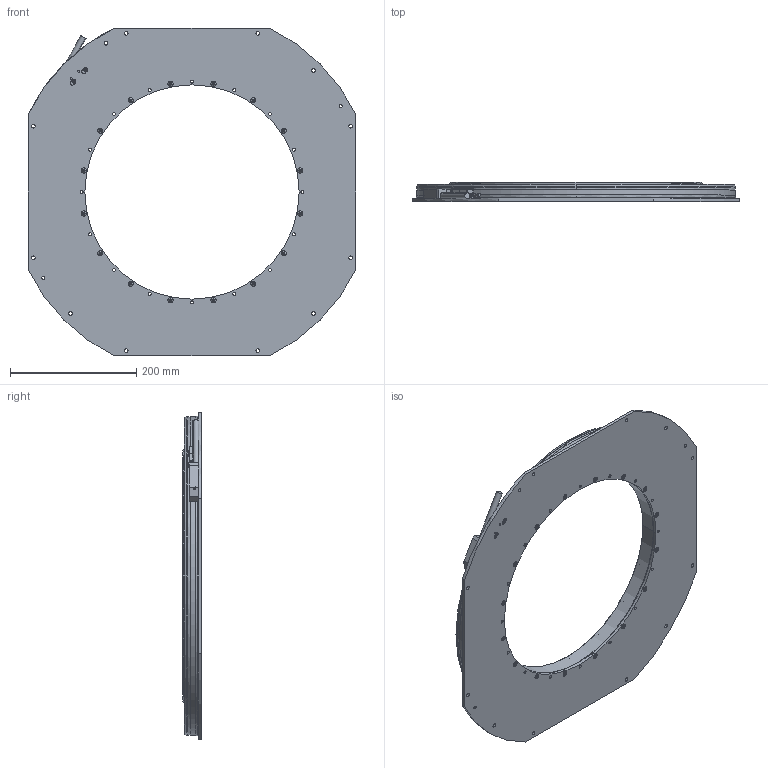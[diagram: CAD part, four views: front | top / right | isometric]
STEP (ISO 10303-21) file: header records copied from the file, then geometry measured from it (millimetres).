
FILE_DESCRIPTION (( 'STEP AP203' ), '1' );
FILE_NAME ('T24115A1_DMTK3-90SP00-B0-3XS-0-0.STEP', '2024-01-23T01:54:35', ( '' ), ( '' ), 'SwSTEP 2.0', 'SolidWorks 2015', '' );
FILE_SCHEMA (( 'CONFIG_CONTROL_DESIGN' ));
Length unit declared in the file: millimetre
Products named in the file (1): T24115A1_DMTK3-90SP00-B0-3XS-0-0
Bounding box: 520 x 30 x 520 mm (x, y, z)
Volume: 3061472.1 mm3; surface area: 418285 mm2
Topology: 1 solids, 1 shells, 863 faces, 2159 edges, 1349 vertices
Faces by surface type: cylinder 339, plane 337, cone 139, bspline 41, torus 7
Entity records: 26256 total; most frequent: CARTESIAN_POINT 5742, DIRECTION 4347, ORIENTED_EDGE 4146, EDGE_CURVE 2073, AXIS2_PLACEMENT_3D 1656, VERTEX_POINT 1349, EDGE_LOOP 1064, LINE 1035
